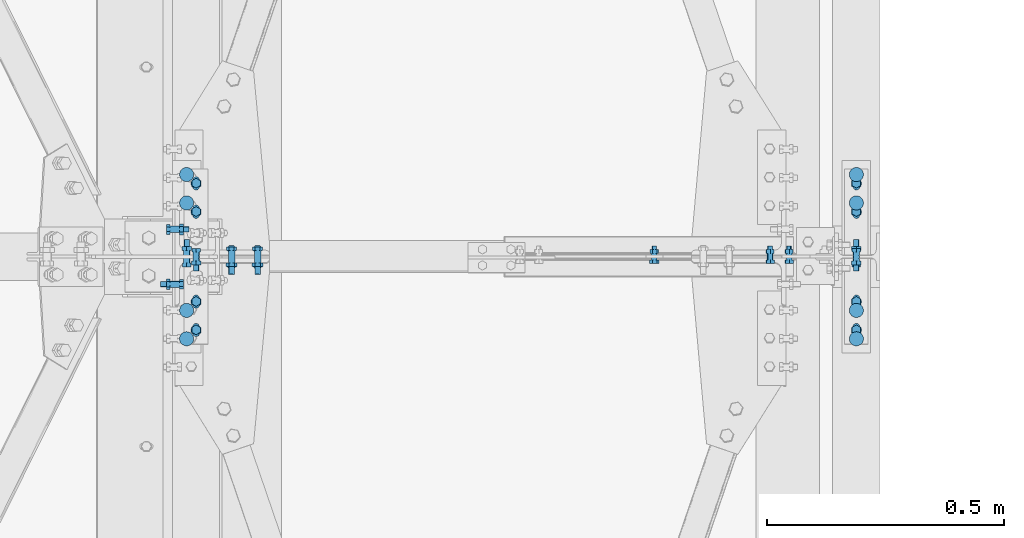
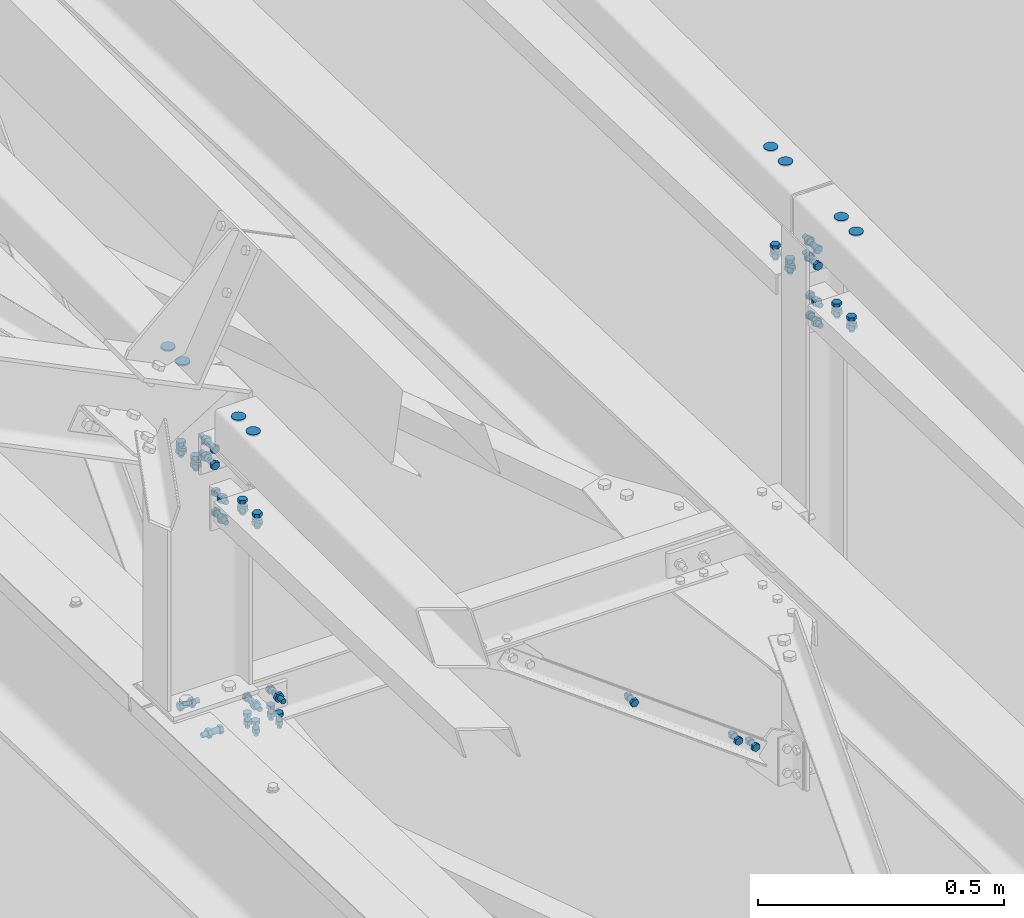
# One storey, part 327 of 362: 18 mechanical fasteners.
"""IFC2X3 building model written with IfcOpenShell, lengths in millimetres."""

from ifc_helpers import new_model, si_unit, frame, frame_2d, origin_with_axes, origin_2d_with_axis, place, context, subcontext, project, spatial, polyline, circle_curve, parameter, trimmed, segment, composite_curve, circle, outline, extrude, source, transform, mapped, material, type_object, element, save


model = new_model("IFC2X3")

# Units and contexts
model_context = context("Model", 3, precision=1e-05, world=origin_with_axes())
body_context = subcontext(model_context, "Body", "Model", "MODEL_VIEW")
ifc_project = project(units=[si_unit("LENGTHUNIT", "METRE", prefix="MILLI"), si_unit("AREAUNIT", "SQUARE_METRE"), si_unit("VOLUMEUNIT", "CUBIC_METRE"), si_unit("MASSUNIT", "GRAM", prefix="KILO"), si_unit("TIMEUNIT", "SECOND"), si_unit("PLANEANGLEUNIT", "RADIAN"), si_unit("SOLIDANGLEUNIT", "STERADIAN"), si_unit("THERMODYNAMICTEMPERATUREUNIT", "DEGREE_CELSIUS"), si_unit("LUMINOUSINTENSITYUNIT", "LUMEN")], contexts=[model_context])

# Site, building, storey
site_placement = place(None, origin_with_axes())
site = spatial("IfcSite", under=ifc_project, at=site_placement, Name="Undefined", CompositionType="ELEMENT")
building_placement = place(site_placement, origin_with_axes())
building = spatial("IfcBuilding", under=site, at=building_placement, Name="Undefined", CompositionType="ELEMENT")
storey_placement = place(building_placement, origin_with_axes())
storey = spatial("IfcBuildingStorey", under=building, at=storey_placement, Name="Undefined", CompositionType="ELEMENT", Elevation=0.0)

# Mechanical fasteners
ifc_material_1 = material(Name="6.8")
mechanical_fastener_type = type_object("IfcMechanicalFastenerType", Name="Bolt assembly")
shared_shape_1 = source(origin_with_axes(), body_context, "Body", "SweptSolid", [
    extrude(circle(Radius=15.0, at=origin_2d_with_axis()), frame((0.0, 0.0, 0.0), z_axis=(0.0, 1.0, 0.0), x_axis=(1.0, 0.0, 0.0)), (0.0, 0.0, 1.0), 4.1),
])
for number, where, z_axis, x_axis, name in (
    (1, (39775.0, 7773.5, 8550.0), (1.0, 0.0, 0.0), (0.0, -1.0, 0.0), "Bolt assembly"),
    (2, (39775.0, 7426.5, 8550.0), (-1.0, 0.0, 0.0), (0.0, 1.0, 0.0), "Bolt assembly"),
    (3, (38360.0, 7773.5, 8550.0), (1.0, 0.0, 0.0), (0.0, -1.0, 0.0), "Bolt assembly"),
    (4, (38360.0, 7426.5, 8550.0), (-1.0, 0.0, 0.0), (0.0, 1.0, 0.0), "Bolt assembly"),
):
    element("IfcMechanicalFastener", number, at=place(storey_placement, frame(where, z_axis=z_axis, x_axis=x_axis)), inside=storey, type_object=mechanical_fastener_type, material=ifc_material_1, Name=name, NominalDiameter=30.0, NominalLength=4.0, context=body_context, shape_type="MappedRepresentation", body=[
        mapped(shared_shape_1, transform((0.0, 0.0, 0.0))),
        mapped(shared_shape_1, transform((60.0, 0.0, 0.0))),
    ])
shared_shape_2 = source(origin_with_axes(), body_context, "Body", "SweptSolid", [
    extrude(circle(Radius=6.0, at=origin_2d_with_axis()), frame((0.0, -6.9, 0.0), z_axis=(0.0, 1.0, 0.0), x_axis=(1.0, 0.0, 0.0)), (0.0, 0.0, 1.0), 4.0),
    extrude(circle(Radius=6.0, at=origin_2d_with_axis()), frame((0.0, 2.90000527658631, 0.0), z_axis=(0.0, 1.0, 0.0), x_axis=(1.0, 0.0, 0.0)), (0.0, 0.0, 1.0), 4.1),
    extrude(circle(Radius=6.0, at=origin_2d_with_axis()), frame((0.0, -2.99999932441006, 0.0), z_axis=(0.0, 1.0, 0.0), x_axis=(1.0, 0.0, 0.0)), (0.0, 0.0, 1.0), 6.0),
    extrude(outline(polyline([(9.81495457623, 0.0), (4.907477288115, 8.5000000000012), (-4.907477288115, 8.5000000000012), (-9.81495457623, 0.0), (-4.907477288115, -8.5000000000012), (4.907477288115, -8.5000000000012), (9.81495457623, 0.0)])), frame((0.0, -14.5000000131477, 0.0), z_axis=(0.0, 1.0, 0.0), x_axis=(1.0, 0.0, 0.0)), (0.0, 0.0, 1.0), 7.5),
    extrude(circle(Radius=5.0, at=origin_2d_with_axis()), frame((0.0, -7.0, 0.0), z_axis=(0.0, 1.0, 0.0), x_axis=(1.0, 0.0, 0.0)), (0.0, 0.0, 1.0), 30.0),
    extrude(outline(polyline([(9.23760430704, 0.0), (4.61880215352, 8.00000000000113), (-4.61880215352, 8.00000000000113), (-9.23760430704, 0.0), (-4.61880215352, -8.00000000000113), (4.61880215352, -8.00000000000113), (9.23760430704, 0.0)])), frame((0.0, 7.0, 0.0), z_axis=(0.0, 1.0, 0.0), x_axis=(1.0, 0.0, 0.0)), (0.0, 0.0, 1.0), 8.4),
])
mechanical_fastener_1_placement = place(storey_placement, frame((39348.1399718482, 7600.00038406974, 7430.76810183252), z_axis=(-0.804920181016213, 0.0, 0.593383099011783), x_axis=(0.593383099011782, 0.0, 0.804920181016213)))
element("IfcMechanicalFastener", 5, at=mechanical_fastener_1_placement, inside=storey, type_object=mechanical_fastener_type, material=ifc_material_1, Name="Bolt assembly", NominalDiameter=10.0, NominalLength=30.0, context=body_context, shape_type="MappedRepresentation", body=[
    mapped(shared_shape_2, transform((0.0, 0.0, 0.0))),
])
ifc_material_2 = material(Name="8.8-SB-ZINGUE")
shared_shape_3 = source(origin_with_axes(), body_context, "Body", "SweptSolid", [
    extrude(circle(Radius=7.0, at=origin_2d_with_axis()), frame((0.0, -2.50010487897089, 0.0), z_axis=(0.0, 1.0, 0.0), x_axis=(1.0, 0.0, 0.0)), (0.0, 0.0, 1.0), 5.0),
    extrude(circle(Radius=7.0, at=origin_2d_with_axis()), frame((0.0, -13.4001048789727, 0.0), z_axis=(0.0, 1.0, 0.0), x_axis=(1.0, 0.0, 0.0)), (0.0, 0.0, 1.0), 10.0),
    extrude(circle(Radius=7.0, at=origin_2d_with_axis()), frame((0.0, 3.3998951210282, 0.0), z_axis=(0.0, 1.0, 0.0), x_axis=(1.0, 0.0, 0.0)), (0.0, 0.0, 1.0), 10.1),
    extrude(outline(polyline([(10.39230484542, 0.0), (5.19615242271, 9.00000000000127), (-5.19615242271, 9.00000000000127), (-10.39230484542, 0.0), (-5.19615242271, -9.00000000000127), (5.19615242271, -9.00000000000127), (10.39230484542, 0.0)])), frame((0.0, -21.4201048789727, 0.0), z_axis=(0.0, 1.0, 0.0), x_axis=(1.0, 0.0, 0.0)), (0.0, 0.0, 1.0), 7.92),
    extrude(circle(Radius=6.0, at=origin_2d_with_axis()), frame((0.0, -13.5000574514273, 0.0), z_axis=(0.0, 1.0, 0.0), x_axis=(1.0, 0.0, 0.0)), (0.0, 0.0, 1.0), 50.0),
    extrude(outline(polyline([(11.5008173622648, 0.0), (5.7504086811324, 9.96000000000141), (-5.7504086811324, 9.96000000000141), (-11.5008173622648, 0.0), (-5.7504086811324, -9.96000000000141), (5.7504086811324, -9.96000000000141), (11.5008173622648, 0.0)])), frame((0.0, 13.4998951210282, 0.0), z_axis=(0.0, 1.0, 0.0), x_axis=(1.0, 0.0, 0.0)), (0.0, 0.0, 1.0), 7.92),
])
mechanical_fastener_2_placement = place(storey_placement, frame((39775.0, 7600.00010487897, 8370.0), z_axis=(-1.0, 0.0, 0.0), x_axis=(0.0, 0.0, 1.0)))
element("IfcMechanicalFastener", 6, at=mechanical_fastener_2_placement, inside=storey, type_object=mechanical_fastener_type, material=ifc_material_2, Name="Bolt assembly", NominalDiameter=12.0, NominalLength=50.0, context=body_context, shape_type="MappedRepresentation", body=[
    mapped(shared_shape_3, transform((0.0, 0.0, 0.0))),
    mapped(shared_shape_3, transform((40.0, 0.0, 0.0))),
])
shared_shape_4 = source(origin_with_axes(), body_context, "Body", "SweptSolid", [
    extrude(circle(Radius=7.0, at=origin_2d_with_axis()), frame((0.0, -2.5, 0.0), z_axis=(0.0, 1.0, 0.0), x_axis=(1.0, 0.0, 0.0)), (0.0, 0.0, 1.0), 5.0),
    extrude(circle(Radius=7.0, at=origin_2d_with_axis()), frame((0.0, 3.40000111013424, 0.0), z_axis=(0.0, 1.0, 0.0), x_axis=(1.0, 0.0, 0.0)), (0.0, 0.0, 1.0), 6.1),
    extrude(circle(Radius=7.0, at=origin_2d_with_axis()), frame((0.0, -9.40000000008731, 0.0), z_axis=(0.0, 1.0, 0.0), x_axis=(1.0, 0.0, 0.0)), (0.0, 0.0, 1.0), 6.0),
    extrude(outline(polyline([(10.39230484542, 0.0), (5.19615242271, 9.00000000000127), (-5.19615242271, 9.00000000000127), (-10.39230484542, 0.0), (-5.19615242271, -9.00000000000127), (5.19615242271, -9.00000000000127), (10.39230484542, 0.0)])), frame((0.0, -17.4200000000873, 0.0), z_axis=(0.0, 1.0, 0.0), x_axis=(1.0, 0.0, 0.0)), (0.0, 0.0, 1.0), 7.92),
    extrude(circle(Radius=6.0, at=origin_2d_with_axis()), frame((0.0, -9.50000000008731, 0.0), z_axis=(0.0, 1.0, 0.0), x_axis=(1.0, 0.0, 0.0)), (0.0, 0.0, 1.0), 40.0),
    extrude(outline(polyline([(11.5008173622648, 0.0), (5.7504086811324, 9.96000000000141), (-5.7504086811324, 9.96000000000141), (-11.5008173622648, 0.0), (-5.7504086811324, -9.96000000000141), (5.7504086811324, -9.96000000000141), (11.5008173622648, 0.0)])), frame((0.0, 9.50000815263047, 0.0), z_axis=(0.0, 1.0, 0.0), x_axis=(1.0, 0.0, 0.0)), (0.0, 0.0, 1.0), 7.92),
])
mechanical_fastener_3_placement = place(storey_placement, frame((39775.0000000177, 7600.0, 8227.43274813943), z_axis=(1.0, 0.0, 0.0), x_axis=(0.0, 0.0, 1.0)))
element("IfcMechanicalFastener", 7, at=mechanical_fastener_3_placement, inside=storey, type_object=mechanical_fastener_type, material=ifc_material_2, Name="Bolt assembly", NominalDiameter=12.0, NominalLength=40.0, context=body_context, shape_type="MappedRepresentation", body=[
    mapped(shared_shape_4, transform((0.0, 0.0, 0.0))),
    mapped(shared_shape_4, transform((49.9999999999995, 0.0, -3.63797880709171e-12))),
])
shared_shape_5 = source(origin_with_axes(), body_context, "Body", "SweptSolid", [
    extrude(circle(Radius=7.0, at=origin_2d_with_axis()), frame((0.0, -3.87554476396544, 0.0), z_axis=(0.0, 1.0, 0.0), x_axis=(1.0, 0.0, 0.0)), (0.0, 0.0, 1.0), 4.0),
    extrude(outline(composite_curve([segment(polyline([(-7.0, 7.0), (7.0, 7.0)]), True, "CONTINUOUS"), segment(trimmed(circle_curve(frame_2d((7.0, 0.0), x_axis=(0.0, 1.0)), 7.0), [parameter(0.0)], [parameter(3.14159265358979)], False, "PARAMETER"), True, "CONTINUOUS"), segment(polyline([(7.0, -7.0), (-7.0, -7.0)]), True, "CONTINUOUS"), segment(trimmed(circle_curve(frame_2d((-7.0, 0.0), x_axis=(0.0, -1.0)), 7.0), [parameter(0.0)], [parameter(3.14159265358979)], False, "PARAMETER"), True, "DISCONTINUOUS")], self_intersect=False)), frame((0.0, -0.100011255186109, 0.0), z_axis=(0.0, 1.0, 0.0), x_axis=(1.0, 0.0, 0.0)), (0.0, 0.0, 1.0), 6.1),
    extrude(outline(polyline([(10.39230484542, 0.0), (5.19615242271, 9.00000000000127), (-5.19615242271, 9.00000000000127), (-10.39230484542, 0.0), (-5.19615242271, -9.00000000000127), (5.19615242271, -9.00000000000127), (10.39230484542, 0.0)])), frame((0.0, -11.8955447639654, 0.0), z_axis=(0.0, 1.0, 0.0), x_axis=(1.0, 0.0, 0.0)), (0.0, 0.0, 1.0), 7.92),
    extrude(circle(Radius=6.0, at=origin_2d_with_axis()), frame((0.0, -3.97554476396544, 0.0), z_axis=(0.0, 1.0, 0.0), x_axis=(1.0, 0.0, 0.0)), (0.0, 0.0, 1.0), 30.0),
    extrude(circle(Radius=10.8, at=origin_2d_with_axis()), frame((0.0, 6.0, 0.0), z_axis=(0.0, 1.0, 0.0), x_axis=(1.0, 0.0, 0.0)), (0.0, 0.0, 1.0), 3.96),
    extrude(outline(polyline([(11.5008173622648, 0.0), (5.7504086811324, 9.96000000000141), (-5.7504086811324, 9.96000000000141), (-11.5008173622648, 0.0), (-5.7504086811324, -9.96000000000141), (5.7504086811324, -9.96000000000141), (11.5008173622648, 0.0)])), frame((0.0, 9.9600084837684, 0.0), z_axis=(0.0, 1.0, 0.0), x_axis=(1.0, 0.0, 0.0)), (0.0, 0.0, 1.0), 7.92),
])
mechanical_fastener_4_placement = place(storey_placement, frame((39775.0, 7754.95557192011, 8307.56250616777), z_axis=(1.0, 0.0, 0.0), x_axis=(0.0, -0.999506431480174, 0.0314148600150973)))
element("IfcMechanicalFastener", 8, at=mechanical_fastener_4_placement, inside=storey, type_object=mechanical_fastener_type, material=ifc_material_2, Name="Bolt assembly", NominalDiameter=12.0, NominalLength=30.0, context=body_context, shape_type="MappedRepresentation", body=[
    mapped(shared_shape_5, transform((0.0, 0.0, 0.0))),
    mapped(shared_shape_5, transform((60.0, 0.0, 0.0))),
])
shared_shape_6 = source(origin_with_axes(), body_context, "Body", "SweptSolid", [
    extrude(circle(Radius=7.0, at=origin_2d_with_axis()), frame((0.0, -3.87440921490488, 0.0), z_axis=(0.0, 1.0, 0.0), x_axis=(1.0, 0.0, 0.0)), (0.0, 0.0, 1.0), 4.0),
    extrude(outline(composite_curve([segment(polyline([(-7.0, 7.0), (7.0, 7.0)]), True, "CONTINUOUS"), segment(trimmed(circle_curve(frame_2d((7.0, 0.0), x_axis=(0.0, 1.0)), 7.0), [parameter(0.0)], [parameter(3.14159265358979)], False, "PARAMETER"), True, "CONTINUOUS"), segment(polyline([(7.0, -7.0), (-7.0, -7.0)]), True, "CONTINUOUS"), segment(trimmed(circle_curve(frame_2d((-7.0, 0.0), x_axis=(0.0, -1.0)), 7.0), [parameter(0.0)], [parameter(3.14159265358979)], False, "PARAMETER"), True, "DISCONTINUOUS")], self_intersect=False)), frame((0.0, -0.100011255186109, 0.0), z_axis=(0.0, 1.0, 0.0), x_axis=(1.0, 0.0, 0.0)), (0.0, 0.0, 1.0), 6.1),
    extrude(outline(polyline([(10.39230484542, 0.0), (5.19615242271, 9.00000000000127), (-5.19615242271, 9.00000000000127), (-10.39230484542, 0.0), (-5.19615242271, -9.00000000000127), (5.19615242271, -9.00000000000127), (10.39230484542, 0.0)])), frame((0.0, -11.8944092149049, 0.0), z_axis=(0.0, 1.0, 0.0), x_axis=(1.0, 0.0, 0.0)), (0.0, 0.0, 1.0), 7.92),
    extrude(circle(Radius=6.0, at=origin_2d_with_axis()), frame((0.0, -3.97440921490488, 0.0), z_axis=(0.0, 1.0, 0.0), x_axis=(1.0, 0.0, 0.0)), (0.0, 0.0, 1.0), 30.0),
    extrude(circle(Radius=10.8, at=origin_2d_with_axis()), frame((0.0, 6.0, 0.0), z_axis=(0.0, 1.0, 0.0), x_axis=(1.0, 0.0, 0.0)), (0.0, 0.0, 1.0), 3.96),
    extrude(outline(polyline([(11.5008173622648, 0.0), (5.7504086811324, 9.96000000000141), (-5.7504086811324, 9.96000000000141), (-11.5008173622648, 0.0), (-5.7504086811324, -9.96000000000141), (5.7504086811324, -9.96000000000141), (11.5008173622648, 0.0)])), frame((0.0, 9.9600084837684, 0.0), z_axis=(0.0, 1.0, 0.0), x_axis=(1.0, 0.0, 0.0)), (0.0, 0.0, 1.0), 7.92),
])
mechanical_fastener_5_placement = place(storey_placement, frame((39775.0, 7445.0444201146, 8317.30299256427), z_axis=(-1.0, 0.0, 0.0), x_axis=(0.0, 0.99950644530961, -0.0314144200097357)))
element("IfcMechanicalFastener", 9, at=mechanical_fastener_5_placement, inside=storey, type_object=mechanical_fastener_type, material=ifc_material_2, Name="Bolt assembly", NominalDiameter=12.0, NominalLength=30.0, context=body_context, shape_type="MappedRepresentation", body=[
    mapped(shared_shape_6, transform((0.0, 0.0, 0.0))),
    mapped(shared_shape_6, transform((60.0, 0.0, 0.0))),
])
shared_shape_7 = source(origin_with_axes(), body_context, "Body", "SweptSolid", [
    extrude(circle(Radius=7.0, at=origin_2d_with_axis()), frame((0.0, -2.7999999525, 0.0), z_axis=(0.0, 1.0, 0.0), x_axis=(1.0, 0.0, 0.0)), (0.0, 0.0, 1.0), 5.6),
    extrude(circle(Radius=7.0, at=origin_2d_with_axis()), frame((0.0, -9.40000000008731, 0.0), z_axis=(0.0, 1.0, 0.0), x_axis=(1.0, 0.0, 0.0)), (0.0, 0.0, 1.0), 6.0),
    extrude(circle(Radius=7.0, at=origin_2d_with_axis()), frame((0.0, 3.40000111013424, 0.0), z_axis=(0.0, 1.0, 0.0), x_axis=(1.0, 0.0, 0.0)), (0.0, 0.0, 1.0), 6.1),
    extrude(outline(polyline([(10.39230484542, 0.0), (5.19615242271, 9.00000000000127), (-5.19615242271, 9.00000000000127), (-10.39230484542, 0.0), (-5.19615242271, -9.00000000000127), (5.19615242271, -9.00000000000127), (10.39230484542, 0.0)])), frame((0.0, -17.4200000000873, 0.0), z_axis=(0.0, 1.0, 0.0), x_axis=(1.0, 0.0, 0.0)), (0.0, 0.0, 1.0), 7.92),
    extrude(circle(Radius=6.0, at=origin_2d_with_axis()), frame((0.0, -9.50000000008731, 0.0), z_axis=(0.0, 1.0, 0.0), x_axis=(1.0, 0.0, 0.0)), (0.0, 0.0, 1.0), 40.0),
    extrude(outline(polyline([(11.5008173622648, 0.0), (5.7504086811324, 9.96000000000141), (-5.7504086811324, 9.96000000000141), (-11.5008173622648, 0.0), (-5.7504086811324, -9.96000000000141), (5.7504086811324, -9.96000000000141), (11.5008173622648, 0.0)])), frame((0.0, 9.50000815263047, 0.0), z_axis=(0.0, 1.0, 0.0), x_axis=(1.0, 0.0, 0.0)), (0.0, 0.0, 1.0), 7.92),
])
mechanical_fastener_6_placement = place(storey_placement, frame((38380.0000000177, 7600.0, 8227.43274813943), z_axis=(1.0, 0.0, 0.0), x_axis=(0.0, 0.0, 1.0)))
element("IfcMechanicalFastener", 10, at=mechanical_fastener_6_placement, inside=storey, type_object=mechanical_fastener_type, material=ifc_material_2, Name="Bolt assembly", NominalDiameter=12.0, NominalLength=40.0, context=body_context, shape_type="MappedRepresentation", body=[
    mapped(shared_shape_7, transform((0.0, 0.0, 0.0))),
    mapped(shared_shape_7, transform((49.9999999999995, 0.0, -3.63797880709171e-12))),
])
shared_shape_8 = source(origin_with_axes(), body_context, "Body", "SweptSolid", [
    extrude(circle(Radius=7.0, at=origin_2d_with_axis()), frame((0.0, -3.89999843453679, 0.0), z_axis=(0.0, 1.0, 0.0), x_axis=(1.0, 0.0, 0.0)), (0.0, 0.0, 1.0), 4.0),
    extrude(outline(composite_curve([segment(polyline([(-7.0, 7.0), (7.0, 7.0)]), True, "CONTINUOUS"), segment(trimmed(circle_curve(frame_2d((7.0, 0.0), x_axis=(0.0, 1.0)), 7.0), [parameter(0.0)], [parameter(3.14159265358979)], False, "PARAMETER"), True, "CONTINUOUS"), segment(polyline([(7.0, -7.0), (-7.0, -7.0)]), True, "CONTINUOUS"), segment(trimmed(circle_curve(frame_2d((-7.0, 0.0), x_axis=(0.0, -1.0)), 7.0), [parameter(0.0)], [parameter(3.14159265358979)], False, "PARAMETER"), True, "DISCONTINUOUS")], self_intersect=False)), frame((0.0, -0.100011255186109, 0.0), z_axis=(0.0, 1.0, 0.0), x_axis=(1.0, 0.0, 0.0)), (0.0, 0.0, 1.0), 6.1),
    extrude(outline(polyline([(10.39230484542, 0.0), (5.19615242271, 9.00000000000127), (-5.19615242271, 9.00000000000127), (-10.39230484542, 0.0), (-5.19615242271, -9.00000000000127), (5.19615242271, -9.00000000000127), (10.39230484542, 0.0)])), frame((0.0, -11.9199984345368, 0.0), z_axis=(0.0, 1.0, 0.0), x_axis=(1.0, 0.0, 0.0)), (0.0, 0.0, 1.0), 7.92),
    extrude(circle(Radius=6.0, at=origin_2d_with_axis()), frame((0.0, -3.99999923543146, 0.0), z_axis=(0.0, 1.0, 0.0), x_axis=(1.0, 0.0, 0.0)), (0.0, 0.0, 1.0), 30.0),
    extrude(circle(Radius=10.8, at=origin_2d_with_axis()), frame((0.0, 6.0, 0.0), z_axis=(0.0, 1.0, 0.0), x_axis=(1.0, 0.0, 0.0)), (0.0, 0.0, 1.0), 3.96),
    extrude(outline(polyline([(11.5008173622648, 0.0), (5.7504086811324, 9.96000000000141), (-5.7504086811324, 9.96000000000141), (-11.5008173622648, 0.0), (-5.7504086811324, -9.96000000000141), (5.7504086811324, -9.96000000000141), (11.5008173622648, 0.0)])), frame((0.0, 9.9600084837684, 0.0), z_axis=(0.0, 1.0, 0.0), x_axis=(1.0, 0.0, 0.0)), (0.0, 0.0, 1.0), 7.92),
])
mechanical_fastener_7_placement = place(storey_placement, frame((38380.0, 7754.95557192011, 8307.56250616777), z_axis=(1.0, 0.0, 0.0), x_axis=(0.0, -0.999506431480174, 0.0314148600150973)))
element("IfcMechanicalFastener", 11, at=mechanical_fastener_7_placement, inside=storey, type_object=mechanical_fastener_type, material=ifc_material_2, Name="Bolt assembly", NominalDiameter=12.0, NominalLength=30.0, context=body_context, shape_type="MappedRepresentation", body=[
    mapped(shared_shape_8, transform((0.0, 0.0, 0.0))),
    mapped(shared_shape_8, transform((60.0, 0.0, 0.0))),
])
shared_shape_9 = source(origin_with_axes(), body_context, "Body", "SweptSolid", [
    extrude(circle(Radius=7.0, at=origin_2d_with_axis()), frame((0.0, -3.89999843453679, 0.0), z_axis=(0.0, 1.0, 0.0), x_axis=(1.0, 0.0, 0.0)), (0.0, 0.0, 1.0), 4.0),
    extrude(outline(composite_curve([segment(polyline([(-7.0, 7.0), (7.0, 7.0)]), True, "CONTINUOUS"), segment(trimmed(circle_curve(frame_2d((7.0, 0.0), x_axis=(0.0, 1.0)), 7.0), [parameter(0.0)], [parameter(3.14159265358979)], False, "PARAMETER"), True, "CONTINUOUS"), segment(polyline([(7.0, -7.0), (-7.0, -7.0)]), True, "CONTINUOUS"), segment(trimmed(circle_curve(frame_2d((-7.0, 0.0), x_axis=(0.0, -1.0)), 7.0), [parameter(0.0)], [parameter(3.14159265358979)], False, "PARAMETER"), True, "DISCONTINUOUS")], self_intersect=False)), frame((0.0, -0.100011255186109, 0.0), z_axis=(0.0, 1.0, 0.0), x_axis=(1.0, 0.0, 0.0)), (0.0, 0.0, 1.0), 6.1),
    extrude(outline(polyline([(10.39230484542, 0.0), (5.19615242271, 9.00000000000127), (-5.19615242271, 9.00000000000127), (-10.39230484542, 0.0), (-5.19615242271, -9.00000000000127), (5.19615242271, -9.00000000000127), (10.39230484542, 0.0)])), frame((0.0, -11.9199984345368, 0.0), z_axis=(0.0, 1.0, 0.0), x_axis=(1.0, 0.0, 0.0)), (0.0, 0.0, 1.0), 7.92),
    extrude(circle(Radius=6.0, at=origin_2d_with_axis()), frame((0.0, -3.99999923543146, 0.0), z_axis=(0.0, 1.0, 0.0), x_axis=(1.0, 0.0, 0.0)), (0.0, 0.0, 1.0), 30.0),
    extrude(circle(Radius=10.8, at=origin_2d_with_axis()), frame((0.0, 6.0, 0.0), z_axis=(0.0, 1.0, 0.0), x_axis=(1.0, 0.0, 0.0)), (0.0, 0.0, 1.0), 3.96),
    extrude(outline(polyline([(11.5008173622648, 0.0), (5.7504086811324, 9.96000000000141), (-5.7504086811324, 9.96000000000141), (-11.5008173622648, 0.0), (-5.7504086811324, -9.96000000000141), (5.7504086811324, -9.96000000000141), (11.5008173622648, 0.0)])), frame((0.0, 9.9600084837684, 0.0), z_axis=(0.0, 1.0, 0.0), x_axis=(1.0, 0.0, 0.0)), (0.0, 0.0, 1.0), 7.92),
])
mechanical_fastener_8_placement = place(storey_placement, frame((38380.0, 7445.0444201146, 8317.30299256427), z_axis=(-1.0, 0.0, 0.0), x_axis=(0.0, 0.99950644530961, -0.0314144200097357)))
element("IfcMechanicalFastener", 12, at=mechanical_fastener_8_placement, inside=storey, type_object=mechanical_fastener_type, material=ifc_material_2, Name="Bolt assembly", NominalDiameter=12.0, NominalLength=30.0, context=body_context, shape_type="MappedRepresentation", body=[
    mapped(shared_shape_9, transform((0.0, 0.0, 0.0))),
    mapped(shared_shape_9, transform((60.0, 0.0, 0.0))),
])
shared_shape_10 = source(origin_with_axes(), body_context, "Body", "SweptSolid", [
    extrude(circle(Radius=7.0, at=origin_2d_with_axis()), frame((0.0, -2.80010483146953, 0.0), z_axis=(0.0, 1.0, 0.0), x_axis=(1.0, 0.0, 0.0)), (0.0, 0.0, 1.0), 5.6),
    extrude(circle(Radius=7.0, at=origin_2d_with_axis()), frame((0.0, 3.3998951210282, 0.0), z_axis=(0.0, 1.0, 0.0), x_axis=(1.0, 0.0, 0.0)), (0.0, 0.0, 1.0), 10.1),
    extrude(circle(Radius=7.0, at=origin_2d_with_axis()), frame((0.0, -13.4001048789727, 0.0), z_axis=(0.0, 1.0, 0.0), x_axis=(1.0, 0.0, 0.0)), (0.0, 0.0, 1.0), 10.0),
    extrude(outline(polyline([(10.39230484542, 0.0), (5.19615242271, 9.00000000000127), (-5.19615242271, 9.00000000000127), (-10.39230484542, 0.0), (-5.19615242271, -9.00000000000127), (5.19615242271, -9.00000000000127), (10.39230484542, 0.0)])), frame((0.0, -21.4201048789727, 0.0), z_axis=(0.0, 1.0, 0.0), x_axis=(1.0, 0.0, 0.0)), (0.0, 0.0, 1.0), 7.92),
    extrude(circle(Radius=6.0, at=origin_2d_with_axis()), frame((0.0, -13.5000574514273, 0.0), z_axis=(0.0, 1.0, 0.0), x_axis=(1.0, 0.0, 0.0)), (0.0, 0.0, 1.0), 50.0),
    extrude(outline(polyline([(11.5008173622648, 0.0), (5.7504086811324, 9.96000000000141), (-5.7504086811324, 9.96000000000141), (-11.5008173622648, 0.0), (-5.7504086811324, -9.96000000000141), (5.7504086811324, -9.96000000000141), (11.5008173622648, 0.0)])), frame((0.0, 13.4998951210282, 0.0), z_axis=(0.0, 1.0, 0.0), x_axis=(1.0, 0.0, 0.0)), (0.0, 0.0, 1.0), 7.92),
])
mechanical_fastener_9_placement = place(storey_placement, frame((38360.0, 7600.00010487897, 8370.0), z_axis=(-1.0, 0.0, 0.0), x_axis=(0.0, 0.0, 1.0)))
element("IfcMechanicalFastener", 13, at=mechanical_fastener_9_placement, inside=storey, type_object=mechanical_fastener_type, material=ifc_material_2, Name="Bolt assembly", NominalDiameter=12.0, NominalLength=50.0, context=body_context, shape_type="MappedRepresentation", body=[
    mapped(shared_shape_10, transform((0.0, 0.0, 0.0))),
    mapped(shared_shape_10, transform((40.0, 0.0, 0.0))),
])
shared_shape_11 = source(origin_with_axes(), body_context, "Body", "SweptSolid", [
    extrude(circle(Radius=6.0, at=origin_2d_with_axis()), frame((0.0, -6.89961591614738, 0.0), z_axis=(0.0, 1.0, 0.0), x_axis=(1.0, 0.0, 0.0)), (0.0, 0.0, 1.0), 4.0),
    extrude(circle(Radius=6.0, at=origin_2d_with_axis()), frame((0.0, 2.90038411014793, 0.0), z_axis=(0.0, 1.0, 0.0), x_axis=(1.0, 0.0, 0.0)), (0.0, 0.0, 1.0), 4.1),
    extrude(circle(Radius=6.0, at=origin_2d_with_axis()), frame((0.0, -2.99999932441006, 0.0), z_axis=(0.0, 1.0, 0.0), x_axis=(1.0, 0.0, 0.0)), (0.0, 0.0, 1.0), 6.0),
    extrude(outline(polyline([(9.81495457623, 0.0), (4.907477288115, 8.5000000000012), (-4.907477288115, 8.5000000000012), (-9.81495457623, 0.0), (-4.907477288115, -8.5000000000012), (4.907477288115, -8.5000000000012), (9.81495457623, 0.0)])), frame((0.0, -14.4996159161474, 0.0), z_axis=(0.0, 1.0, 0.0), x_axis=(1.0, 0.0, 0.0)), (0.0, 0.0, 1.0), 7.5),
    extrude(circle(Radius=5.0, at=origin_2d_with_axis()), frame((0.0, -6.99961591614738, 0.0), z_axis=(0.0, 1.0, 0.0), x_axis=(1.0, 0.0, 0.0)), (0.0, 0.0, 1.0), 30.0),
    extrude(outline(polyline([(9.23760430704, 0.0), (4.61880215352, 8.00000000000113), (-4.61880215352, 8.00000000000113), (-9.23760430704, 0.0), (-4.61880215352, -8.00000000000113), (4.61880215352, -8.00000000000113), (9.23760430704, 0.0)])), frame((0.0, 7.00036854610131, 0.0), z_axis=(0.0, 1.0, 0.0), x_axis=(1.0, 0.0, 0.0)), (0.0, 0.0, 1.0), 8.4),
])
mechanical_fastener_10_placement = place(storey_placement, frame((39632.8617282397, 7600.0, 7220.87265832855), z_axis=(-0.593383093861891, 0.0, -0.804920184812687), x_axis=(-0.804920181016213, 0.0, 0.593383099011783)))
element("IfcMechanicalFastener", 14, at=mechanical_fastener_10_placement, inside=storey, type_object=mechanical_fastener_type, material=ifc_material_1, Name="Bolt assembly", NominalDiameter=10.0, NominalLength=30.0, context=body_context, shape_type="MappedRepresentation", body=[
    mapped(shared_shape_11, transform((0.0, 0.0, 0.0))),
    mapped(shared_shape_11, transform((49.9999999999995, 0.0, -3.63797880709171e-12))),
])
shared_shape_12 = source(origin_with_axes(), body_context, "Body", "SweptSolid", [
    extrude(circle(Radius=6.0, at=origin_2d_with_axis()), frame((0.0, -6.19999893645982, 0.0), z_axis=(0.0, 1.0, 0.0), x_axis=(1.0, 0.0, 0.0)), (0.0, 0.0, 1.0), 6.3),
    extrude(circle(Radius=6.0, at=origin_2d_with_axis()), frame((0.0, -0.10007666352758, 0.0), z_axis=(0.0, 1.0, 0.0), x_axis=(1.0, 0.0, 0.0)), (0.0, 0.0, 1.0), 6.1),
    extrude(outline(polyline([(9.81495457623, 0.0), (4.907477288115, 8.5000000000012), (-4.907477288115, 8.5000000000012), (-9.81495457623, 0.0), (-4.907477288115, -8.5000000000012), (4.907477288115, -8.5000000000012), (9.81495457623, 0.0)])), frame((0.0, -13.7999989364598, 0.0), z_axis=(0.0, 1.0, 0.0), x_axis=(1.0, 0.0, 0.0)), (0.0, 0.0, 1.0), 7.5),
    extrude(circle(Radius=5.0, at=origin_2d_with_axis()), frame((0.0, -6.29999893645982, 0.0), z_axis=(0.0, 1.0, 0.0), x_axis=(1.0, 0.0, 0.0)), (0.0, 0.0, 1.0), 30.0),
    extrude(outline(polyline([(9.23760430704, 0.0), (4.61880215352, 8.00000000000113), (-4.61880215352, 8.00000000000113), (-9.23760430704, 0.0), (-4.61880215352, -8.00000000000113), (4.61880215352, -8.00000000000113), (9.23760430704, 0.0)])), frame((0.0, 5.99989660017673, 0.0), z_axis=(0.0, 1.0, 0.0), x_axis=(1.0, 0.0, 0.0)), (0.0, 0.0, 1.0), 8.4),
])
mechanical_fastener_11_placement = place(storey_placement, frame((38510.0, 7598.11577227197, 7691.16029627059), z_axis=(0.0, -0.999506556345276, 0.031410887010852), x_axis=(-1.0, 0.0, 0.0)))
element("IfcMechanicalFastener", 15, at=mechanical_fastener_11_placement, inside=storey, type_object=mechanical_fastener_type, material=ifc_material_1, Name="Bolt assembly", NominalDiameter=10.0, NominalLength=30.0, context=body_context, shape_type="MappedRepresentation", body=[
    mapped(shared_shape_12, transform((0.0, 3.18323145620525e-11, -16.9999999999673))),
    mapped(shared_shape_12, transform((55.0, 8.18545231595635e-12, -16.9999999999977))),
    mapped(shared_shape_12, transform((0.0, -3.18323145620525e-11, 16.9999999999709))),
    mapped(shared_shape_12, transform((55.0, -7.27595761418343e-12, 16.9999999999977))),
])
shared_shape_13 = source(origin_with_axes(), body_context, "Body", "SweptSolid", [
    extrude(circle(Radius=7.0, at=origin_2d_with_axis()), frame((0.0, -2.20000854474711, 0.0), z_axis=(0.0, 1.0, 0.0), x_axis=(1.0, 0.0, 0.0)), (0.0, 0.0, 1.0), 4.4),
    extrude(circle(Radius=7.0, at=origin_2d_with_axis()), frame((0.0, 2.90000527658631, 0.0), z_axis=(0.0, 1.0, 0.0), x_axis=(1.0, 0.0, 0.0)), (0.0, 0.0, 1.0), 10.1),
    extrude(circle(Radius=7.0, at=origin_2d_with_axis()), frame((0.0, -12.9008585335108, 0.0), z_axis=(0.0, 1.0, 0.0), x_axis=(1.0, 0.0, 0.0)), (0.0, 0.0, 1.0), 10.0),
    extrude(outline(polyline([(10.39230484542, 0.0), (5.19615242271, 9.00000000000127), (-5.19615242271, 9.00000000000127), (-10.39230484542, 0.0), (-5.19615242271, -9.00000000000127), (5.19615242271, -9.00000000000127), (10.39230484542, 0.0)])), frame((0.0, -20.9208585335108, 0.0), z_axis=(0.0, 1.0, 0.0), x_axis=(1.0, 0.0, 0.0)), (0.0, 0.0, 1.0), 7.92),
    extrude(circle(Radius=6.0, at=origin_2d_with_axis()), frame((0.0, -13.0008585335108, 0.0), z_axis=(0.0, 1.0, 0.0), x_axis=(1.0, 0.0, 0.0)), (0.0, 0.0, 1.0), 50.0),
    extrude(outline(polyline([(11.5008173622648, 0.0), (5.7504086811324, 9.96000000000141), (-5.7504086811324, 9.96000000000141), (-11.5008173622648, 0.0), (-5.7504086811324, -9.96000000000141), (5.7504086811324, -9.96000000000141), (11.5008173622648, 0.0)])), frame((0.0, 13.0000006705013, 0.0), z_axis=(0.0, 1.0, 0.0), x_axis=(1.0, 0.0, 0.0)), (0.0, 0.0, 1.0), 7.92),
])
mechanical_fastener_12_placement = place(storey_placement, frame((38510.0, 7599.68588410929, 7741.13566965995), z_axis=(7.58071938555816e-11, 0.0314107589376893, 0.999506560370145), x_axis=(-1.0, 0.0, 0.0)))
element("IfcMechanicalFastener", 16, at=mechanical_fastener_12_placement, inside=storey, type_object=mechanical_fastener_type, material=ifc_material_2, Name="Bolt assembly", NominalDiameter=12.0, NominalLength=50.0, context=body_context, shape_type="MappedRepresentation", body=[
    mapped(shared_shape_13, transform((0.0, 0.0, 0.0))),
    mapped(shared_shape_13, transform((55.0000000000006, -1.81898940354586e-10, 0.0))),
])
shared_shape_14 = source(origin_with_axes(), body_context, "Body", "SweptSolid", [
    extrude(circle(Radius=7.0, at=origin_2d_with_axis()), frame((0.0, -4.59999980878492, 0.0), z_axis=(0.0, 1.0, 0.0), x_axis=(1.0, 0.0, 0.0)), (0.0, 0.0, 1.0), 9.4),
    extrude(circle(Radius=7.0, at=origin_2d_with_axis()), frame((0.0, 4.9000000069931, 0.0), z_axis=(0.0, 1.0, 0.0), x_axis=(1.0, 0.0, 0.0)), (0.0, 0.0, 1.0), 10.1),
    extrude(outline(polyline([(10.39230484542, 0.0), (5.19615242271, 9.00000000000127), (-5.19615242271, 9.00000000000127), (-10.39230484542, 0.0), (-5.19615242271, -9.00000000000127), (5.19615242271, -9.00000000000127), (10.39230484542, 0.0)])), frame((0.0, -12.6199998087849, 0.0), z_axis=(0.0, 1.0, 0.0), x_axis=(1.0, 0.0, 0.0)), (0.0, 0.0, 1.0), 7.92),
    extrude(circle(Radius=6.0, at=origin_2d_with_axis()), frame((0.0, -4.69999899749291, 0.0), z_axis=(0.0, 1.0, 0.0), x_axis=(1.0, 0.0, 0.0)), (0.0, 0.0, 1.0), 40.0),
    extrude(outline(polyline([(11.5008173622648, 0.0), (5.7504086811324, 9.96000000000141), (-5.7504086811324, 9.96000000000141), (-11.5008173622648, 0.0), (-5.7504086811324, -9.96000000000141), (5.7504086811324, -9.96000000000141), (11.5008173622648, 0.0)])), frame((0.0, 15.0000000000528, 0.0), z_axis=(0.0, 1.0, 0.0), x_axis=(1.0, 0.0, 0.0)), (0.0, 0.0, 1.0), 7.92),
])
mechanical_fastener_13_placement = place(storey_placement, frame((38330.0, 7657.65812090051, 7739.3137609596), z_axis=(7.58071938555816e-11, 0.0314107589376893, 0.999506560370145), x_axis=(0.0, -0.999506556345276, 0.031410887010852)))
element("IfcMechanicalFastener", 17, at=mechanical_fastener_13_placement, inside=storey, type_object=mechanical_fastener_type, material=ifc_material_2, Name="Bolt assembly", NominalDiameter=12.0, NominalLength=40.0, context=body_context, shape_type="MappedRepresentation", body=[
    mapped(shared_shape_14, transform((0.0, 0.0, 0.0))),
])
shared_shape_15 = source(origin_with_axes(), body_context, "Body", "SweptSolid", [
    extrude(circle(Radius=7.0, at=origin_2d_with_axis()), frame((0.0, -4.79999988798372, 0.0), z_axis=(0.0, 1.0, 0.0), x_axis=(1.0, 0.0, 0.0)), (0.0, 0.0, 1.0), 9.5),
    extrude(circle(Radius=7.0, at=origin_2d_with_axis()), frame((0.0, -14.899999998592, 0.0), z_axis=(0.0, 1.0, 0.0), x_axis=(1.0, 0.0, 0.0)), (0.0, 0.0, 1.0), 10.0),
    extrude(outline(polyline([(10.39230484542, 0.0), (5.19615242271, 9.00000000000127), (-5.19615242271, 9.00000000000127), (-10.39230484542, 0.0), (-5.19615242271, -9.00000000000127), (5.19615242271, -9.00000000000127), (10.39230484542, 0.0)])), frame((0.0, -22.919999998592, 0.0), z_axis=(0.0, 1.0, 0.0), x_axis=(1.0, 0.0, 0.0)), (0.0, 0.0, 1.0), 7.92),
    extrude(circle(Radius=6.0, at=origin_2d_with_axis()), frame((0.0, -14.999999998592, 0.0), z_axis=(0.0, 1.0, 0.0), x_axis=(1.0, 0.0, 0.0)), (0.0, 0.0, 1.0), 40.0),
    extrude(outline(polyline([(11.5008173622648, 0.0), (5.7504086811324, 9.96000000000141), (-5.7504086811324, 9.96000000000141), (-11.5008173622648, 0.0), (-5.7504086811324, -9.96000000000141), (5.7504086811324, -9.96000000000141), (11.5008173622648, 0.0)])), frame((0.0, 4.69999973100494, 0.0), z_axis=(0.0, 1.0, 0.0), x_axis=(1.0, 0.0, 0.0)), (0.0, 0.0, 1.0), 7.92),
])
mechanical_fastener_14_placement = place(storey_placement, frame((38330.0, 7541.71450217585, 7742.95756697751), z_axis=(7.58071938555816e-11, 0.0314107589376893, 0.999506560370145), x_axis=(3.14103090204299e-11, 0.999506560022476, -0.0314107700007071)))
element("IfcMechanicalFastener", 18, at=mechanical_fastener_14_placement, inside=storey, type_object=mechanical_fastener_type, material=ifc_material_2, Name="Bolt assembly", NominalDiameter=12.0, NominalLength=40.0, context=body_context, shape_type="MappedRepresentation", body=[
    mapped(shared_shape_15, transform((0.0, 0.0, 0.0))),
])

save(model, "model.ifc")
